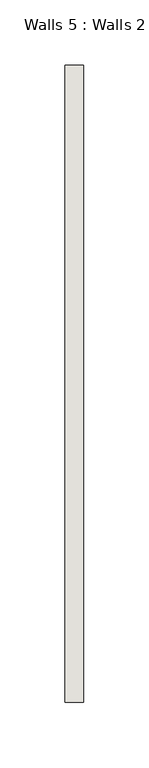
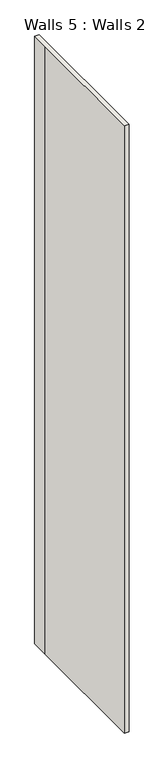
"""IFC4 building model written with IfcOpenShell, lengths in millimetres: wall geometry, Walls 5 : Walls 2."""

from ifc_helpers import new_model, si_unit, frame, origin, place, context, project, spatial, polyline, outline, extrude, source, transform, mapped, element, save


def walls_5_walls_2_e6dc0c2e(model_context):
    return source(origin(), model_context, "Body", "SweptSolid", [
        extrude(outline(polyline([(8313.3666668, 2012.4615693), (8299.1453126, 2012.4615693), (8299.1453126, 2446.4072164), (8299.1453126, 2500.7997972), (8313.3666668, 2500.7997972), (8313.3666668, 2012.4615693)])), frame((0.0, 0.0, 429.8090256), z_axis=(0.0, 0.0, 1.0), x_axis=(1.0, 0.0, 0.0)), (0.0, 0.0, 1.0), 2016.0),
    ])


if __name__ == "__main__":
    model = new_model("IFC4")
    model_context = context("Model", 3, world=origin())
    ifc_project = project(units=[si_unit("LENGTHUNIT", "METRE", prefix="MILLI")], contexts=[model_context])
    site = spatial("IfcSite", under=ifc_project)
    building = spatial("IfcBuilding", under=site)
    placement = place(None, origin())
    walls_5_walls_2_shape = walls_5_walls_2_e6dc0c2e(model_context)
    element("IfcWall", 1, ObjectType="Walls 5 : Walls 2", at=placement, inside=building, context=model_context, shape_type="MappedRepresentation", body=[
        mapped(walls_5_walls_2_shape, transform((0.0, 0.0, 0.0), x_axis=(1.0, 0.0, 0.0), y_axis=(0.0, 1.0, 0.0), z_axis=(0.0, 0.0, 1.0))),
    ])
    save(model, "model.ifc")
